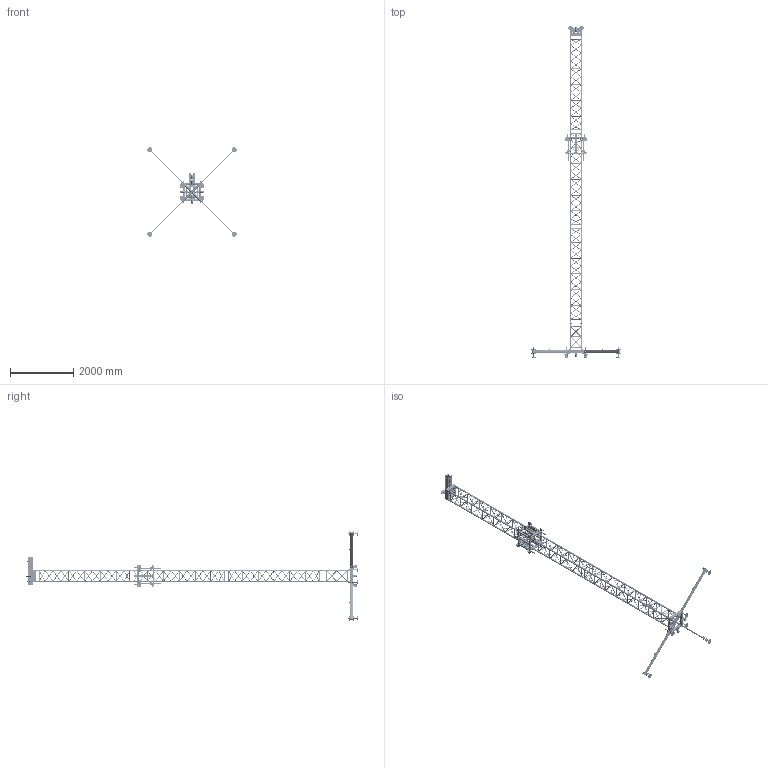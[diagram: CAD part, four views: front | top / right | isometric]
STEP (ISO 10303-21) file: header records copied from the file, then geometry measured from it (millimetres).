
FILE_DESCRIPTION (( 'STEP AP214' ), '1' );
FILE_NAME ('04705-0e1-9.8m.STEP', '2022-10-18T15:16:28', ( '' ), ( '' ), 'SwSTEP 2.0', 'SolidWorks 2022', '' );
FILE_SCHEMA (( 'AUTOMOTIVE_DESIGN' ));
Length unit declared in the file: millimetre
Products named in the file (72): 04705-201_repf; Vis TETE H_VIS H M10x20; 03 001 21_PATTE_repa; 0504001_axe_palan; 03 001 21_PATTE; 02505-102; SC39300FCE; 02505-503; 04705-302; 03 001 21_ECROU; 04705-305_repg; poulie; 04705-2e2_poulie; 04705-302_repc; 0504002_repc_sym; Vis TETE H_VIS H M20X90; 0504002_repc; ecrou_din_315-m12; 02505-103; 04705-3e1_embase; 04705-301_Défaut<Brut d''usinage>; CIRCLIPE30; 04705-201_reph; BNL100_36_PIV_FSTF_170208N; 04705-305_repa_0504003_repb; 04705-201_repd; 0504002_repf; 04705-201_repk; 04705-302_repa; 04705-305_repd_Défaut<Brut d''usinage>; 0504002_repe; 0504001_poulie; 04705-2e1_chariot; Vis TETE H_VIS H M20X85; manchon_fem_50x2_manchon_recoupe_lg45; poulie_oreille_secu_tl400; 02505-504; SC39080FCE; 04705-201; Ecrou H_ECROU M10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
Assembly tree (272 placements, depth 4):
  04705-0e1-9.8m
    04705-3e1_embase
      04705-305
        04705-305_repa
        04705-305_repa_0504003_repb  x2
        04705-305_repa_0504003_repc  x4
        04705-305_repd_Défaut<Brut d''usinage>  x4
        04705-305_repe  x4
        04705-305_repf  x4
        04705-305_repg  x4
        demi_moyeu_male_d50_ht54  x4
        Ecrou H_ECROU M10  x4
      04705-301_Défaut<Brut d''usinage>  x4
      04705-302  x8
        04705-302_repa
        04705-302_repb
        04705-302_repc
        Rondelle plate_RONDELLE M Ø16
      03 001 21_PATTE  x4
        03 001 21_PATTE_repa
        03 001 21_PATTE_repb
      03 001 21_ECROU  x8
      Vis TETE H_VIS H M10x20  x4
      BNL100_36_PIV_FSTF_170208N  x4
    04705-2e1_chariot
      04705-201
        04705-201_repa  x8
        04705-201_repa_04705-201_repb  x8
        04705-201_repk  x8
        04705-201_repc  x10
        04705-201_repd  x8
        04705-201_repe  x16
        04705-201_repf  x8
        04705-201_repg  x20
        04705-201_reph  x4
        04705-201_repi  x4
        04705-201_repj_Défaut<Brut d''usinage>  x16
      04705-2e2_poulie  x16
        0504001_poulie
        0504001_entretoise
        Vis TETE H_VIS H M16x60
        Ecrou Nylstop_ECROU H FR M16
      0504001_axe_palan  x4
      goupille_clip 4.5x42  x4
    SC39080FCE
    CHAR78_1  x4
      02505-102
      02505-103
      02005-104
      beta_15_25
    SC39300FCE  x3
    04705-1e1_tete_de_tour
      0504002_tete_tour
        0504002_repa  x4
        0504002_repc
        0504002_repc_sym
        0504002_repd  x4
        0504002_repf  x3
        0504002_repe  x4
        0504002_repg  x2
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Bounding box: 2832.86 x 10516 x 2832.86 mm (x, y, z)
Volume: 81515789.1 mm3; surface area: 37102339.9 mm2
Topology: 684 solids, 2872 shells, 10822 faces, 40845 edges, 33643 vertices
Faces by surface type: plane 4304, cylinder 3478, cone 1530, bspline 1252, torus 226, sphere 32
Full cylindrical faces by diameter (mm): 2 x16, 3.4 x4, 3.6 x24, 4 x40, 5 x8, 6 x4, 7 x4, 8 x4, 8.376 x4, 9 x16, 10 x4, 10.106 x2, 11 x48, 11.835 x16, 12 x10, 14 x4, 14.794 x4, 16 x172, 16.3 x16, 17 x40, 18 x20, 20 x188, 20.5 x4, 21 x4, 21.3 x16, 21.5 x16, 22 x12, 22.5 x12, 23 x8, 24 x128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
Entity records: 184222 total; most frequent: CARTESIAN_POINT 105849, ORIENTED_EDGE 13028, DIRECTION 11759, EDGE_CURVE 9147, VERTEX_POINT 8133, AXIS2_PLACEMENT_3D 4520, B_SPLINE_CURVE_WITH_KNOTS 4487, EDGE_LOOP 4084
